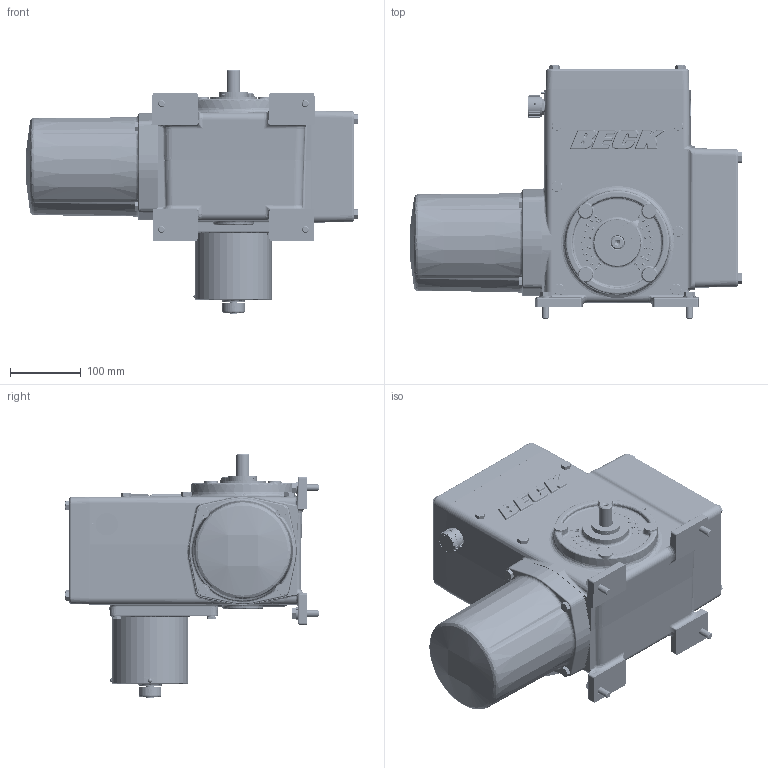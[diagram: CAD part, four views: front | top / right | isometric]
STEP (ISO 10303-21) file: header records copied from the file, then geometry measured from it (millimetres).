
FILE_DESCRIPTION (( 'STEP AP214' ), '1' );
FILE_NAME ('BECK_11^150 w_fasteners.STEP', '2025-02-27T17:04:05', ( '' ), ( '' ), 'SwSTEP 2.0', 'SolidWorks 2022', '' );
FILE_SCHEMA (( 'AUTOMOTIVE_DESIGN' ));
Length unit declared in the file: inch
Products named in the file (4): BECK_11^150 w_fasteners; 30-0313-22_30-0313-22; 30-0306-34_30-0306-34; 11-150 w_fasteners
Assembly tree (9 placements, depth 2):
  BECK_11^150 w_fasteners
    11-150 w_fasteners
    30-0313-22_30-0313-22  x4
    30-0306-34_30-0306-34  x4
Bounding box: 469.01 x 357.66 x 344.9 mm (x, y, z)
Volume: 5644325.8 mm3; surface area: 1400710.2 mm2
Topology: 69 solids, 69 shells, 7540 faces, 18679 edges, 11338 vertices
Faces by surface type: plane 2210, bspline 2077, cylinder 1828, cone 1417, torus 8
Entity records: 318543 total; most frequent: CARTESIAN_POINT 154730, ORIENTED_EDGE 36452, DIRECTION 30771, EDGE_CURVE 18226, AXIS2_PLACEMENT_3D 11447, VERTEX_POINT 11212, EDGE_LOOP 7948, VECTOR 7877
